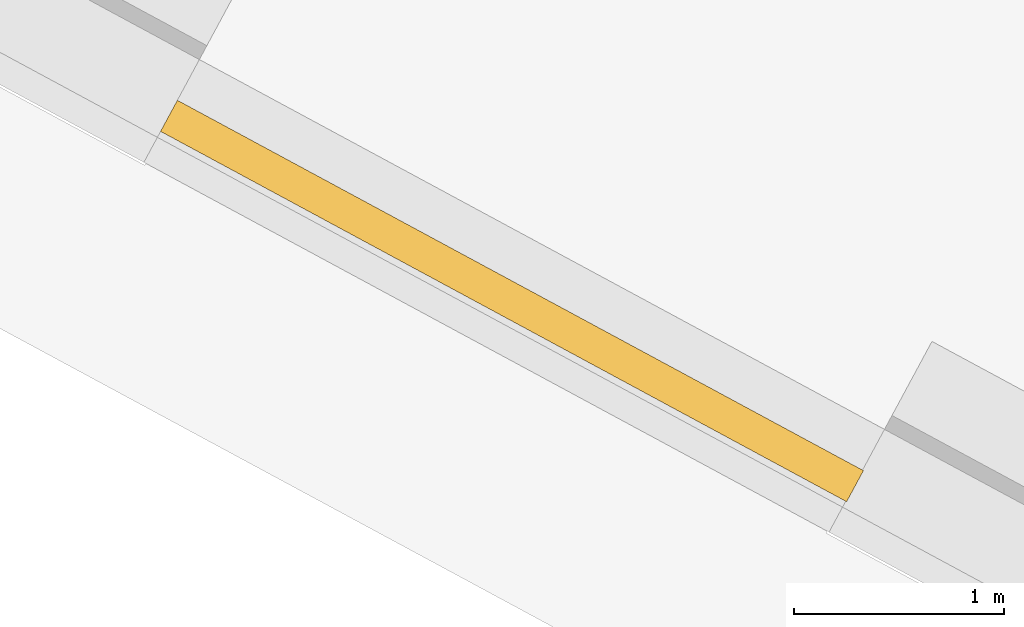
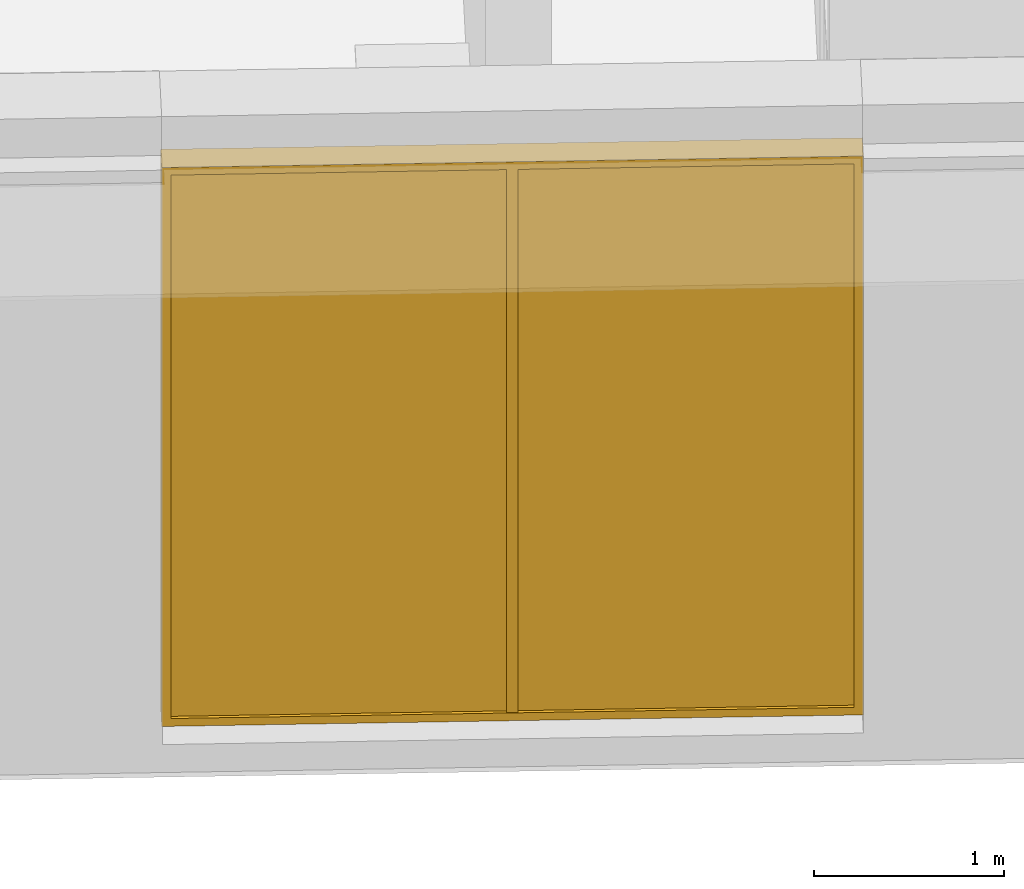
# One storey, part 14 of 36: 1 curtain wall.
"""IFC2X3 building model written with IfcOpenShell, lengths in metres."""

from ifc_helpers import new_model, entity, si_unit, converted_unit, derived_unit, money_unit, direction, frame, origin_with_axes, place, context, subcontext, project, spatial, faceted_brep, material, material_list, type_object, element, save


model = new_model("IFC2X3")

# Units and contexts
model_context = context("Model", 3, precision=1e-05, world=origin_with_axes(), true_north=direction((0.0, 1.0)))
body_context = subcontext(model_context, "Body", "Model", "MODEL_VIEW")
ifc_project = project(units=[si_unit("LENGTHUNIT", "METRE"), si_unit("AREAUNIT", "SQUARE_METRE"), si_unit("VOLUMEUNIT", "CUBIC_METRE"), converted_unit("PLANEANGLEUNIT", "DEGREE", entity("IfcPlaneAngleMeasure", 0.0174532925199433), si_unit("PLANEANGLEUNIT", "RADIAN"), dimensions=[0, 0, 0, 0, 0, 0, 0]), money_unit("EUR"), converted_unit("TIMEUNIT", "Year", entity("IfcTimeMeasure", 31556926.0), si_unit("TIMEUNIT", "SECOND"), dimensions=[0, 0, 1, 0, 0, 0, 0]), si_unit("MASSUNIT", "GRAM", prefix="KILO"), si_unit("THERMODYNAMICTEMPERATUREUNIT", "DEGREE_CELSIUS"), si_unit("LUMINOUSINTENSITYUNIT", "LUMEN"), si_unit("ENERGYUNIT", "JOULE", prefix="MEGA"), derived_unit("THERMALCONDUCTANCEUNIT", [(si_unit("POWERUNIT", "WATT"), 1), (si_unit("LENGTHUNIT", "METRE"), -1), (si_unit("THERMODYNAMICTEMPERATUREUNIT", "KELVIN"), -1)]), derived_unit("SPECIFICHEATCAPACITYUNIT", [(si_unit("ENERGYUNIT", "JOULE"), 1), (si_unit("MASSUNIT", "GRAM", prefix="KILO"), -1), (si_unit("THERMODYNAMICTEMPERATUREUNIT", "KELVIN"), -1)]), derived_unit("MASSDENSITYUNIT", [(si_unit("MASSUNIT", "GRAM", prefix="KILO"), 1), (si_unit("VOLUMEUNIT", "CUBIC_METRE"), -1)])], contexts=[model_context])

# Site, building, storey
site_placement = place(None, frame((-3.949935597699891, 1.740105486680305, 0.0), z_axis=(0.0, 0.0, 1.0), x_axis=(0.8799804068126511, -0.475009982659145, 0.0)))
site = spatial("IfcSite", under=ifc_project, at=site_placement, Name="Gelände", CompositionType="ELEMENT")
building_placement = place(site_placement, origin_with_axes())
building = spatial("IfcBuilding", under=site, at=building_placement, Name="Gebäude", CompositionType="ELEMENT")
storey_placement = place(building_placement, origin_with_axes())
storey = spatial("IfcBuildingStorey", under=building, at=storey_placement, Name="Erdgeschoss", CompositionType="ELEMENT", Elevation=0.0)

# Curtain wall
ifc_material_1 = material(Name="Glas, Normalglas-50% durchlässig")
ifc_material_2 = material(Name="Metall, Stahl lackiert")
ifc_material_3 = material(Name="Metall, Aluminium")
ifc_material_list = material_list([ifc_material_1, ifc_material_1, ifc_material_2, ifc_material_2, ifc_material_2, ifc_material_2, ifc_material_3, ifc_material_2, ifc_material_2, ifc_material_2, ifc_material_3, ifc_material_2])
curtain_wall_type = type_object("IfcCurtainWallType", Name="Fassadentyp", PredefinedType="NOTDEFINED")
curtain_wall_placement = place(storey_placement, frame((12.48623957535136, 0.1119999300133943, -5.810757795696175e-07), z_axis=(0.0, 0.0, 1.0), x_axis=(1.0, 0.0, 0.0)))
element("IfcCurtainWall", 1, at=curtain_wall_placement, inside=storey, type_object=curtain_wall_type, material=ifc_material_list, Name="Fassade-006", context=body_context, shape_type="Brep", body=[
    faceted_brep([(0.926250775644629, 0.01500000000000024, 3.570000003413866), (-0.896250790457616, 0.01500000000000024, 3.570000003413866), (-0.896250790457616, -0.01499999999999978, 3.570000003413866), (0.926250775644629, -0.01499999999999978, 3.570000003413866), (0.926250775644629, 0.01500000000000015, 2.589999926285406), (0.926250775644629, 0.01500000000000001, 0.02999998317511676), (-0.896250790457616, 0.01500000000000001, 0.02999998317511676), (-0.896250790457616, 0.01500000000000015, 2.589999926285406), (-0.896250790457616, -0.01499999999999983, 2.589999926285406), (-0.896250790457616, -0.015, 0.02999998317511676), (0.926250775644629, -0.015, 0.02999998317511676), (0.926250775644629, -0.01499999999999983, 2.589999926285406)], [[[0, 1, 2, 3]], [[0, 4, 5, 6, 7, 1]], [[1, 7, 8, 2]], [[3, 2, 8, 9, 10, 11]], [[4, 0, 3, 11]], [[5, 4, 11, 10]], [[6, 5, 10, 9]], [[7, 6, 9, 8]]]),
    faceted_brep([(2.748752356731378, 0.01500000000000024, 3.570000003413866), (0.9262507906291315, 0.01500000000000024, 3.570000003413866), (0.9262507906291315, -0.01499999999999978, 3.570000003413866), (2.748752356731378, -0.01499999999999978, 3.570000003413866), (2.748752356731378, 0.01500000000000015, 2.589999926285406), (2.748752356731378, 0.01500000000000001, 0.02999998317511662), (0.9262507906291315, 0.01500000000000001, 0.02999998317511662), (0.9262507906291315, 0.01500000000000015, 2.589999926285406), (0.9262507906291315, -0.01499999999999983, 2.589999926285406), (0.9262507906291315, -0.015, 0.02999998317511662), (2.748752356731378, -0.015, 0.02999998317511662), (2.748752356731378, -0.01499999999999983, 2.589999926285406)], [[[0, 1, 2, 3]], [[0, 4, 5, 6, 7, 1]], [[1, 7, 8, 2]], [[3, 2, 8, 9, 10, 11]], [[4, 0, 3, 11]], [[5, 4, 11, 10]], [[6, 5, 10, 9]], [[7, 6, 9, 8]]]),
    faceted_brep([(0.9262507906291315, 0.01499999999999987, 3.570000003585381), (0.9262507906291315, -0.01500000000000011, 3.570000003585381), (0.9262507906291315, -0.01500000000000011, 3.550000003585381), (0.9262507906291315, -0.03500000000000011, 3.550000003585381), (0.9262507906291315, -0.03500000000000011, 3.600000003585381), (0.9262507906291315, 0.1329999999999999, 3.600000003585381), (0.9262507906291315, 0.1329999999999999, 3.550000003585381), (0.9262507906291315, 0.0149999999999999, 3.550000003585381), (2.748752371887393, 0.01499999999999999, 3.570000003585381), (2.748752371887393, -0.015, 3.570000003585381), (2.728752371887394, -0.015, 3.550000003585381), (2.728752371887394, -0.035, 3.550000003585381), (2.778752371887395, -0.035, 3.600000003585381), (2.778752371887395, 0.133, 3.600000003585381), (2.728752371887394, 0.133, 3.550000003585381), (2.728752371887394, 0.01500000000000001, 3.550000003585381)], [[[0, 1, 2, 3, 4, 5, 6, 7]], [[1, 0, 8, 9]], [[10, 2, 1, 9]], [[2, 10, 11, 3]], [[4, 3, 11, 12]], [[5, 4, 12, 13]], [[6, 5, 13, 14]], [[15, 7, 6, 14]], [[0, 7, 15, 8]], [[8, 15, 14, 13, 12, 11, 10, 9]]]),
    faceted_brep([(2.748752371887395, 0.01499999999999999, 2.589999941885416), (2.748752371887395, -0.015, 2.589999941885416), (2.728752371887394, -0.01499999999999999, 2.589999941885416), (2.728752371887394, -0.035, 2.589999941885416), (2.778752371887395, -0.035, 2.589999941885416), (2.778752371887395, 0.133, 2.589999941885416), (2.728752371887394, 0.133, 2.589999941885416), (2.728752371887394, 0.01500000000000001, 2.589999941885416), (2.748752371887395, 0.01499999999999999, 0.02999998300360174), (2.748752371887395, -0.015, 0.02999998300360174), (2.728752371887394, -0.01499999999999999, 0.04999998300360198), (2.728752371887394, -0.035, 0.04999998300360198), (2.778752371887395, -0.035, -1.699639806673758e-08), (2.778752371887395, 0.133, -1.699639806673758e-08), (2.728752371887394, 0.133, 0.04999998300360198), (2.728752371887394, 0.01500000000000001, 0.04999998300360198)], [[[0, 1, 2, 3, 4, 5, 6, 7]], [[1, 0, 8, 9]], [[10, 2, 1, 9]], [[2, 10, 11, 3]], [[4, 3, 11, 12]], [[5, 4, 12, 13]], [[6, 5, 13, 14]], [[15, 7, 6, 14]], [[0, 7, 15, 8]], [[8, 15, 14, 13, 12, 11, 10, 9]]]),
    faceted_brep([(2.748752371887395, 0.0149999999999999, 0.02999998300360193), (2.748752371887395, -0.01500000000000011, 0.02999998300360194), (2.728752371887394, -0.0150000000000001, 0.04999998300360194), (2.728752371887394, -0.03500000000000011, 0.04999998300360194), (2.778752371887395, -0.03500000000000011, -1.699639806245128e-08), (2.778752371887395, 0.1329999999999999, -1.699639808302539e-08), (2.728752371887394, 0.1329999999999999, 0.04999998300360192), (2.728752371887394, 0.0149999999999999, 0.04999998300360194), (0.9262507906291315, 0.01500000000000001, 0.02999998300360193), (0.9262507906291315, -0.015, 0.02999998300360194), (0.9262507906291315, -0.01499999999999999, 0.04999998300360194), (0.9262507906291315, -0.035, 0.04999998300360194), (0.9262507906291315, -0.035, -1.699639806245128e-08), (0.9262507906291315, 0.133, -1.699639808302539e-08), (0.9262507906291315, 0.133, 0.04999998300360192), (0.9262507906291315, 0.01500000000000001, 0.04999998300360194)], [[[0, 1, 2, 3, 4, 5, 6, 7]], [[1, 0, 8, 9]], [[10, 2, 1, 9]], [[2, 10, 11, 3]], [[12, 4, 3, 11]], [[13, 5, 4, 12]], [[14, 6, 5, 13]], [[15, 7, 6, 14]], [[0, 7, 15, 8]], [[8, 15, 14, 13, 12, 11, 10, 9]]]),
    faceted_brep([(0.9262507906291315, 0.0149999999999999, 0.02999998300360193), (0.9262507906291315, -0.01500000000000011, 0.02999998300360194), (0.9262507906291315, -0.0150000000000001, 0.04999998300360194), (0.9262507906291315, -0.03500000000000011, 0.04999998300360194), (0.9262507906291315, -0.03500000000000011, -1.699639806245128e-08), (0.9262507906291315, 0.1329999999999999, -1.699639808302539e-08), (0.9262507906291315, 0.1329999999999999, 0.04999998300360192), (0.9262507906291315, 0.0149999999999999, 0.04999998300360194), (-0.8962507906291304, 0.01500000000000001, 0.02999998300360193), (-0.8962507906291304, -0.015, 0.02999998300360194), (-0.8762507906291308, -0.01499999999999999, 0.04999998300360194), (-0.8762507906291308, -0.035, 0.04999998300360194), (-0.9262507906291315, -0.035, -1.699639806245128e-08), (-0.9262507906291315, 0.133, -1.699639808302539e-08), (-0.8762507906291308, 0.133, 0.04999998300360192), (-0.8762507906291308, 0.01500000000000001, 0.04999998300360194)], [[[0, 1, 2, 3, 4, 5, 6, 7]], [[1, 0, 8, 9]], [[10, 2, 1, 9]], [[2, 10, 11, 3]], [[4, 3, 11, 12]], [[5, 4, 12, 13]], [[6, 5, 13, 14]], [[15, 7, 6, 14]], [[0, 7, 15, 8]], [[8, 15, 14, 13, 12, 11, 10, 9]]]),
    faceted_brep([(0.8962507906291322, 0.009999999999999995, 0.04999998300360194), (0.8962507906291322, 0.009999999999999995, 2.589999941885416), (0.8962507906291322, 0.07, 2.589999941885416), (0.8962507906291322, 0.07, 0.04999998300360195), (0.9562507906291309, 0.01000000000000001, 0.04999998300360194), (0.9562507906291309, 0.01000000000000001, 2.589999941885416), (0.9562507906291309, 0.07, 2.589999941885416), (0.9562507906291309, 0.07, 0.04999998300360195)], [[[0, 1, 2, 3]], [[4, 5, 1, 0]], [[2, 1, 5, 6]], [[3, 2, 6, 7]], [[3, 7, 4, 0]], [[7, 6, 5, 4]]]),
    faceted_brep([(0.9562507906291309, -0.009999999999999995, 0.04999998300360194), (0.9562507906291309, -0.009999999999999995, 2.589999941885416), (0.9562507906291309, -0.03, 2.589999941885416), (0.9562507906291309, -0.03, 0.04999998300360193), (0.8962507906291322, -0.01000000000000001, 0.04999998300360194), (0.8962507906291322, -0.01000000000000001, 2.589999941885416), (0.8962507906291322, -0.03, 2.589999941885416), (0.8962507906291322, -0.03, 0.04999998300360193)], [[[0, 1, 2, 3]], [[4, 5, 1, 0]], [[2, 1, 5, 6]], [[3, 2, 6, 7]], [[3, 7, 4, 0]], [[7, 6, 5, 4]]]),
    faceted_brep([(2.748752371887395, 0.01499999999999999, 3.570000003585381), (2.748752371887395, -0.015, 3.570000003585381), (2.728752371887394, -0.01500000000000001, 3.550000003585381), (2.728752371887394, -0.035, 3.550000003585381), (2.778752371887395, -0.035, 3.600000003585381), (2.778752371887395, 0.133, 3.600000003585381), (2.728752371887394, 0.133, 3.550000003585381), (2.728752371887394, 0.01499999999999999, 3.550000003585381), (2.748752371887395, 0.01499999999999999, 2.589999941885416), (2.748752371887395, -0.015, 2.589999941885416), (2.728752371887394, -0.01499999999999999, 2.589999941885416), (2.728752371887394, -0.035, 2.589999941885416), (2.778752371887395, -0.035, 2.589999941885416), (2.778752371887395, 0.133, 2.589999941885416), (2.728752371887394, 0.133, 2.589999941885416), (2.728752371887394, 0.01500000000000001, 2.589999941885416)], [[[0, 1, 2, 3, 4, 5, 6, 7]], [[1, 0, 8, 9]], [[10, 2, 1, 9]], [[2, 10, 11, 3]], [[12, 4, 3, 11]], [[13, 5, 4, 12]], [[14, 6, 5, 13]], [[15, 7, 6, 14]], [[0, 7, 15, 8]], [[8, 15, 14, 13, 12, 11, 10, 9]]]),
    faceted_brep([(-0.8962507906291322, 0.01500000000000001, 3.570000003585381), (-0.8762507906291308, 0.01500000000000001, 3.550000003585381), (-0.8762507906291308, 0.133, 3.550000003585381), (-0.9262507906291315, 0.133, 3.600000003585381), (-0.9262507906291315, -0.035, 3.600000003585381), (-0.8762507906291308, -0.035, 3.550000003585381), (-0.8762507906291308, -0.01499999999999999, 3.550000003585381), (-0.8962507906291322, -0.015, 3.570000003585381), (-0.8962507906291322, 0.01500000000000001, 2.589999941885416), (-0.8762507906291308, 0.01500000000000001, 2.589999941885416), (-0.8762507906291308, 0.133, 2.589999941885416), (-0.9262507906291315, 0.133, 2.589999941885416), (-0.9262507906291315, -0.035, 2.589999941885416), (-0.8762507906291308, -0.035, 2.589999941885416), (-0.8762507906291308, -0.01499999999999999, 2.589999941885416), (-0.8962507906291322, -0.015, 2.589999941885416)], [[[0, 1, 2, 3, 4, 5, 6, 7]], [[0, 8, 9, 1]], [[9, 10, 2, 1]], [[10, 11, 3, 2]], [[11, 12, 4, 3]], [[12, 13, 5, 4]], [[6, 5, 13, 14]], [[14, 15, 7, 6]], [[7, 15, 8, 0]], [[8, 15, 14, 13, 12, 11, 10, 9]]]),
    faceted_brep([(-0.8962507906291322, 0.01500000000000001, 2.589999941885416), (-0.8762507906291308, 0.01500000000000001, 2.589999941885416), (-0.8762507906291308, 0.133, 2.589999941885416), (-0.9262507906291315, 0.133, 2.589999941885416), (-0.9262507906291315, -0.035, 2.589999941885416), (-0.8762507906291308, -0.035, 2.589999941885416), (-0.8762507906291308, -0.01499999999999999, 2.589999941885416), (-0.8962507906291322, -0.015, 2.589999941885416), (-0.8962507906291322, 0.01500000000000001, 0.02999998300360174), (-0.8762507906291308, 0.01500000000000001, 0.04999998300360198), (-0.8762507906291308, 0.133, 0.04999998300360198), (-0.9262507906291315, 0.133, -1.699639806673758e-08), (-0.9262507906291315, -0.035, -1.699639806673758e-08), (-0.8762507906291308, -0.035, 0.04999998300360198), (-0.8762507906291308, -0.01499999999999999, 0.04999998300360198), (-0.8962507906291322, -0.015, 0.02999998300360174)], [[[0, 1, 2, 3, 4, 5, 6, 7]], [[0, 8, 9, 1]], [[9, 10, 2, 1]], [[2, 10, 11, 3]], [[3, 11, 12, 4]], [[4, 12, 13, 5]], [[6, 5, 13, 14]], [[14, 15, 7, 6]], [[7, 15, 8, 0]], [[8, 15, 14, 13, 12, 11, 10, 9]]]),
    faceted_brep([(0.8962507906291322, 0.07, 2.589999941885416), (0.8962507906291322, 0.009999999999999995, 2.589999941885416), (0.8962507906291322, 0.009999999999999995, 3.550000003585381), (0.8962507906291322, 0.07, 3.550000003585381), (0.9562507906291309, 0.07, 2.589999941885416), (0.9562507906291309, 0.01000000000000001, 2.589999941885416), (0.9562507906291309, 0.01000000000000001, 3.550000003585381), (0.9562507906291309, 0.07, 3.550000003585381)], [[[0, 1, 2, 3]], [[0, 4, 5, 1]], [[1, 5, 6, 2]], [[3, 2, 6, 7]], [[4, 0, 3, 7]], [[5, 4, 7, 6]]]),
    faceted_brep([(0.9562507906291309, -0.03, 2.589999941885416), (0.9562507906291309, -0.009999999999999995, 2.589999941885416), (0.9562507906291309, -0.009999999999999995, 3.550000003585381), (0.9562507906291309, -0.03, 3.550000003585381), (0.8962507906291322, -0.03, 2.589999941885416), (0.8962507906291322, -0.01000000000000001, 2.589999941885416), (0.8962507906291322, -0.01000000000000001, 3.550000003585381), (0.8962507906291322, -0.03, 3.550000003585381)], [[[0, 1, 2, 3]], [[0, 4, 5, 1]], [[1, 5, 6, 2]], [[3, 2, 6, 7]], [[4, 0, 3, 7]], [[5, 4, 7, 6]]]),
    faceted_brep([(-0.8962507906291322, 0.01499999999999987, 3.570000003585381), (-0.8962507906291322, -0.01500000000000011, 3.570000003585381), (-0.8762507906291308, -0.01500000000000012, 3.550000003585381), (-0.8762507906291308, -0.03500000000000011, 3.550000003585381), (-0.9262507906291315, -0.03500000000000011, 3.600000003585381), (-0.9262507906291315, 0.1329999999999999, 3.600000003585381), (-0.8762507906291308, 0.1329999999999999, 3.550000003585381), (-0.8762507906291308, 0.01499999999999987, 3.550000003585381), (0.9262507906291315, 0.01499999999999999, 3.570000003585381), (0.9262507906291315, -0.015, 3.570000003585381), (0.9262507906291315, -0.01499999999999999, 3.550000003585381), (0.9262507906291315, -0.035, 3.550000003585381), (0.9262507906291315, -0.035, 3.600000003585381), (0.9262507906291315, 0.133, 3.600000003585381), (0.9262507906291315, 0.133, 3.550000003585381), (0.9262507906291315, 0.01500000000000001, 3.550000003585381)], [[[0, 1, 2, 3, 4, 5, 6, 7]], [[1, 0, 8, 9]], [[10, 2, 1, 9]], [[2, 10, 11, 3]], [[12, 4, 3, 11]], [[13, 5, 4, 12]], [[14, 6, 5, 13]], [[15, 7, 6, 14]], [[0, 7, 15, 8]], [[8, 15, 14, 13, 12, 11, 10, 9]]]),
])

save(model, "model.ifc")
